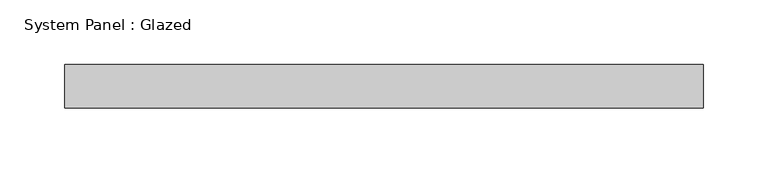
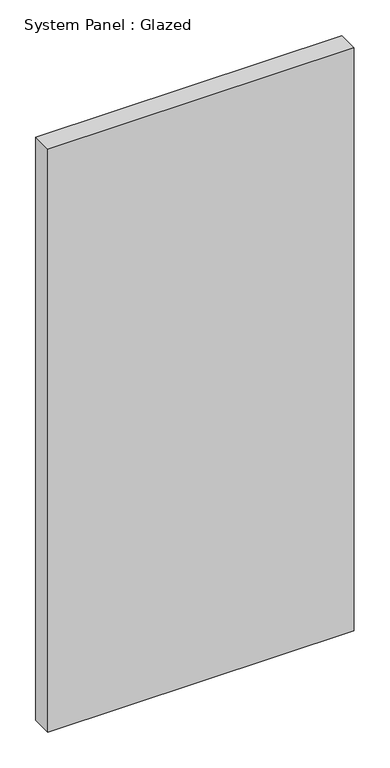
"""IFC4 building model written with IfcOpenShell, lengths in millimetres: plate geometry, System Panel : Glazed."""

from ifc_helpers import new_model, si_unit, origin, origin_with_axes, place, context, project, spatial, polyline, outline, extrude, source, transform, mapped, element, save


def system_panel_glazed_255130bc(model_context):
    return source(origin(), model_context, "Body", "SweptSolid", [
        extrude(outline(polyline([(247.5, -17.0), (-247.5, -17.0), (-247.5, 17.0), (247.5, 17.0), (247.5, -17.0)])), origin_with_axes(), (0.0, 0.0, 1.0), 995.0004903),
    ])


if __name__ == "__main__":
    model = new_model("IFC4")
    model_context = context("Model", 3, world=origin())
    ifc_project = project(units=[si_unit("LENGTHUNIT", "METRE", prefix="MILLI")], contexts=[model_context])
    site = spatial("IfcSite", under=ifc_project)
    building = spatial("IfcBuilding", under=site)
    placement = place(None, origin())
    system_panel_glazed_shape = system_panel_glazed_255130bc(model_context)
    element("IfcPlate", 1, ObjectType="System Panel : Glazed", at=placement, inside=building, context=model_context, shape_type="MappedRepresentation", body=[
        mapped(system_panel_glazed_shape, transform((0.0, 0.0, 0.0), x_axis=(1.0, 0.0, 0.0), y_axis=(0.0, 1.0, 0.0), z_axis=(0.0, 0.0, 1.0))),
    ])
    save(model, "model.ifc")
